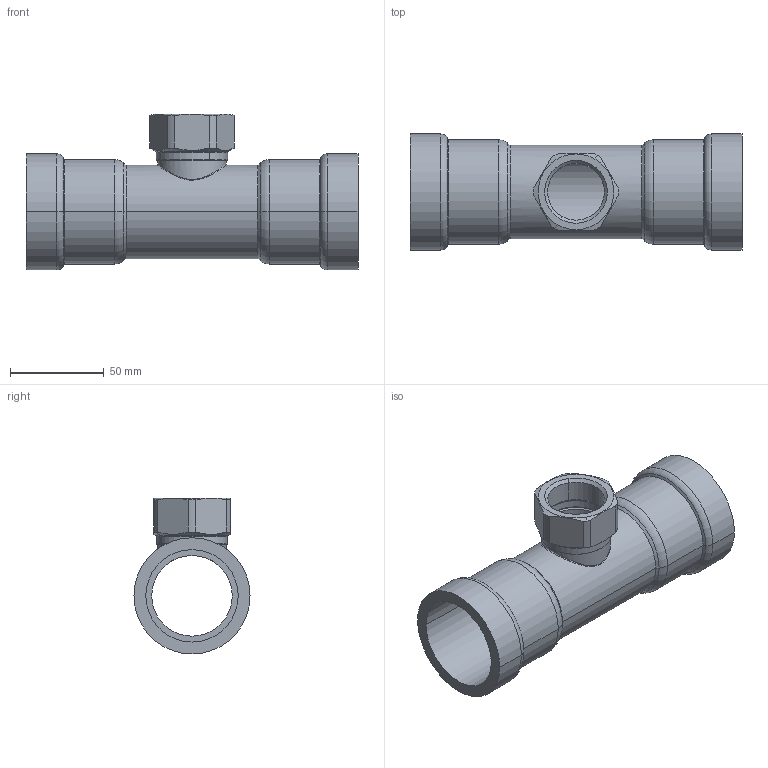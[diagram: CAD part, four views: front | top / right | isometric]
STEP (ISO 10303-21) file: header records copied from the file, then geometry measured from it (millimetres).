
FILE_DESCRIPTION(('Creo Elements/Direct Modeling STEP Export'),'2;1');
FILE_NAME('C9418_1-1-2_Rp1_1-1-2.stp','2020-07-17T 9:23:06',(''),(''),'PTC Creo Elements/Direct Modeling STEP processor for AP214 (Solid Model)','PTC Creo Elements/Direct Modeling 19.0C 15-Aug-2015 (C) Parametric Technology GmbH','');
FILE_SCHEMA(('AUTOMOTIVE_DESIGN { 1 0 10303 214 1 1 1 1 }'));
Length unit declared in the file: millimetre
Products named in the file (2): C9418_1-1-2_Rp1_1-1-2
Assembly tree (1 placements, depth 2):
  C9418_1-1-2_Rp1_1-1-2
    C9418_1-1-2_Rp1_1-1-2
Bounding box: 177.18 x 62 x 83.19 mm (x, y, z)
Volume: 129114 mm3; surface area: 66525 mm2
Topology: 1 solids, 1 shells, 82 faces, 207 edges, 131 vertices
Faces by surface type: cylinder 32, cone 20, torus 14, plane 12, bspline 4
Entity records: 7039 total; most frequent: CARTESIAN_POINT 5192, ORIENTED_EDGE 414, DIRECTION 344, EDGE_CURVE 207, AXIS2_PLACEMENT_3D 143, VERTEX_POINT 131, EDGE_LOOP 90, FACE_OUTER_BOUND 82
